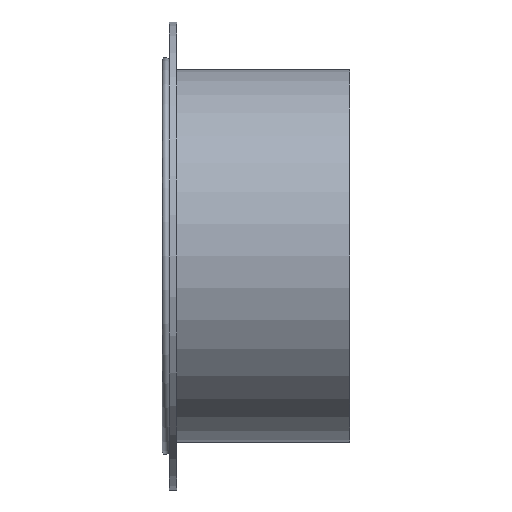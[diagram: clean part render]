
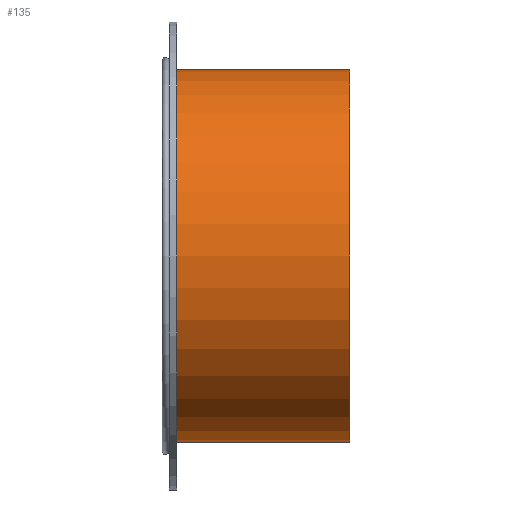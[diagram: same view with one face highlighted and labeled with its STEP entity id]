
A CAD part, left-side view. The second image highlights one B-rep face of the part: STEP entity #135.
In plain terms, the highlighted cylindrical face has radius 100.8 mm (diameter 201.6 mm), a full revolution.
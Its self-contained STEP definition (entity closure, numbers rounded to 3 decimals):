
#135=ADVANCED_FACE('',(#209,#210),#150,.T.);
#150=CYLINDRICAL_SURFACE('',#485,100.8);
#209=FACE_BOUND('',#271,.T.);
#210=FACE_BOUND('',#272,.T.);
#271=EDGE_LOOP('',(#333));
#272=EDGE_LOOP('',(#334));
#333=ORIENTED_EDGE('',*,*,#398,.F.);
#334=ORIENTED_EDGE('',*,*,#393,.T.);
#362=VERTEX_POINT('',#671);
#367=VERTEX_POINT('',#685);
#393=EDGE_CURVE('',#362,#362,#424,.T.);
#398=EDGE_CURVE('',#367,#367,#429,.T.);
#424=CIRCLE('',#474,100.8);
#429=CIRCLE('',#483,100.8);
#474=AXIS2_PLACEMENT_3D('',#670,#575,#576);
#483=AXIS2_PLACEMENT_3D('',#684,#593,#594);
#485=AXIS2_PLACEMENT_3D('',#687,#597,#598);
#575=DIRECTION('',(0.,1.,0.));
#576=DIRECTION('',(1.,0.,0.));
#593=DIRECTION('',(0.,1.,0.));
#594=DIRECTION('',(1.,0.,0.));
#597=DIRECTION('',(0.,1.,0.));
#598=DIRECTION('',(1.,0.,0.));
#670=CARTESIAN_POINT('',(0.,0.,0.));
#671=CARTESIAN_POINT('',(100.8,0.,0.));
#684=CARTESIAN_POINT('',(0.,99.2,0.));
#685=CARTESIAN_POINT('',(100.8,99.2,0.));
#687=CARTESIAN_POINT('',(0.,-192.076,0.));
